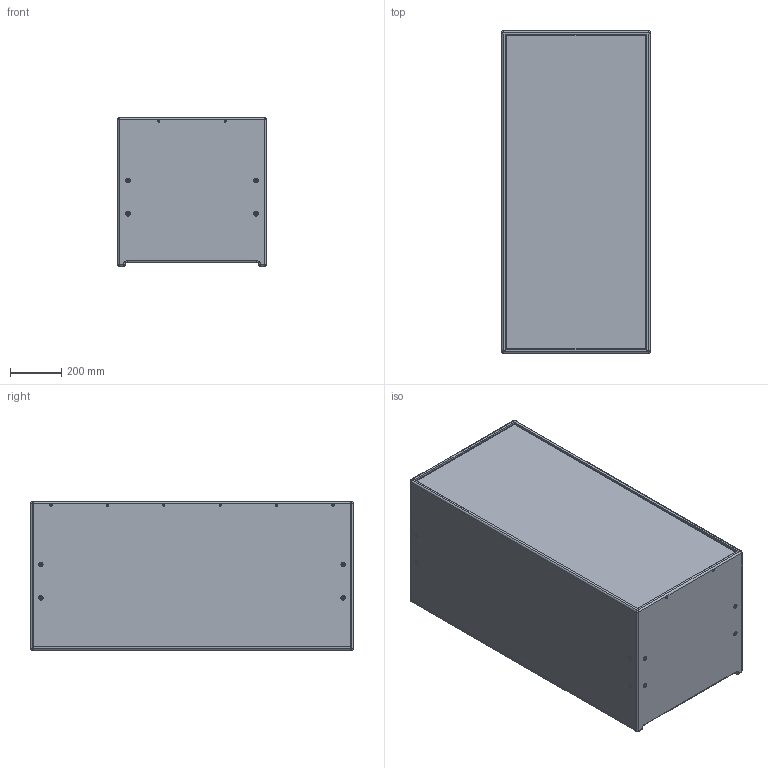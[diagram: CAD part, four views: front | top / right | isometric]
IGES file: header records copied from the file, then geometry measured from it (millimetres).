
Start section: SolidWorks IGES file using analytic representation for surfaces
Global section: file name: D:\Entwicklungen\Projekte aktuell\PS-Serie\Solid Top V6 - PS2F\WEB\PS2.IGS; native system: SolidWorks 2009; preprocessor: SolidWorks 2009; author: Nico; date: 210706.124553; units: millimetre
Bounding box: 580 x 1260 x 580 mm (x, y, z)
Volume: 50602796.9 mm3; surface area: 8845228.1 mm2
Topology: 58 solids, 59 shells, 4796 faces, 24100 edges, 21455 vertices
Faces by surface type: revolution 1946, bspline 1768, plane 1082
